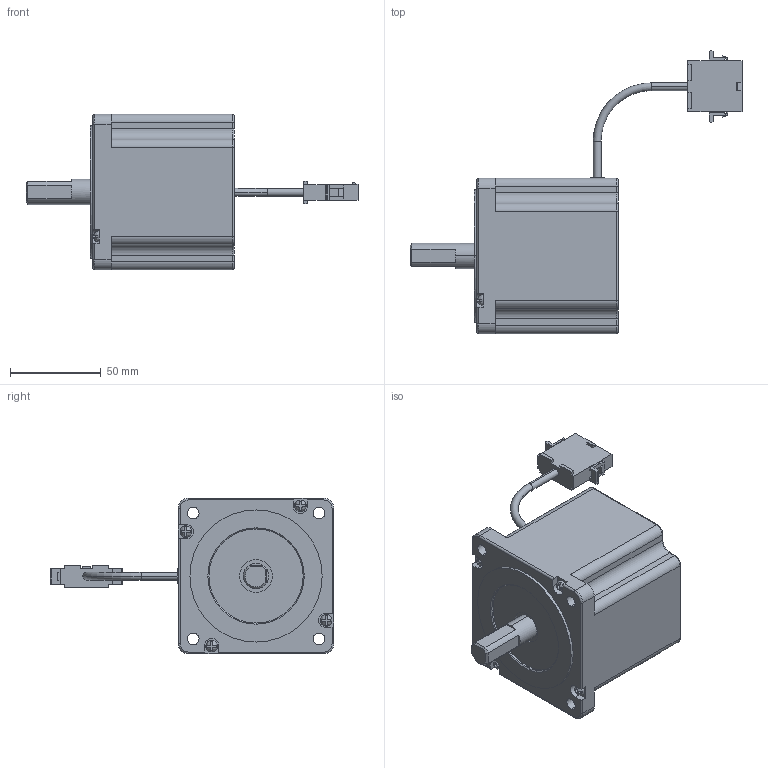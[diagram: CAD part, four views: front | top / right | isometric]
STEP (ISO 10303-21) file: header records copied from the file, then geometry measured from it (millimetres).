
FILE_DESCRIPTION (( 'STEP AP203' ), '1' );
FILE_NAME ('P21-MO-086-01-R00.STEP', '2015-06-30T08:40:53', ( '' ), ( '' ), 'SwSTEP 2.0', 'SolidWorks 2013', '' );
FILE_SCHEMA (( 'CONFIG_CONTROL_DESIGN' ));
Length unit declared in the file: millimetre
Products named in the file (3): Power Cable 86; P21-MO-086-01-R00; M21-MO-086-01-R00
Assembly tree (2 placements, depth 2):
  P21-MO-086-01-R00
    M21-MO-086-01-R00
    Power Cable 86
Bounding box: 183.38 x 156.75 x 86 mm (x, y, z)
Volume: 537698.1 mm3; surface area: 48789.6 mm2
Topology: 2 solids, 2 shells, 306 faces, 819 edges, 528 vertices
Faces by surface type: plane 194, cylinder 86, torus 14, bspline 8, cone 4
Entity records: 10134 total; most frequent: CARTESIAN_POINT 2079, DIRECTION 1631, ORIENTED_EDGE 1622, EDGE_CURVE 811, AXIS2_PLACEMENT_3D 553, VERTEX_POINT 528, VECTOR 525, LINE 525
